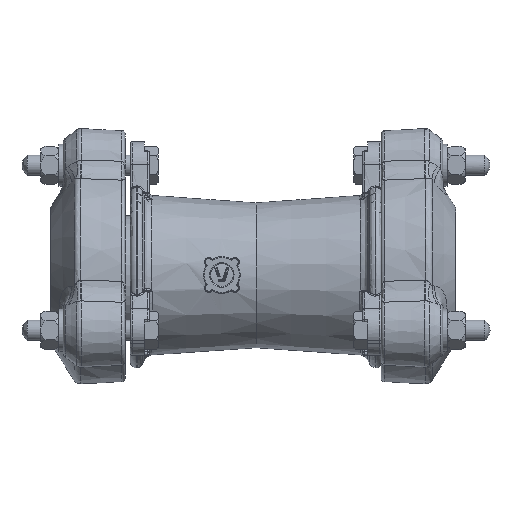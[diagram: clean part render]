
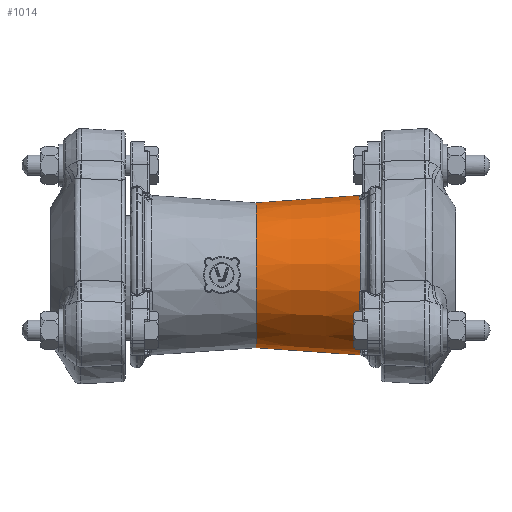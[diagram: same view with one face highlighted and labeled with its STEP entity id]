
A CAD part, front view. The second image highlights one B-rep face of the part: STEP entity #1014.
In plain terms, the highlighted conical face has half-angle 4 degrees and reference radius 43.606 mm.
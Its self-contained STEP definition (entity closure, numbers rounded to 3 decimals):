
#870=CARTESIAN_POINT('',(-42.123,0.0,0.0));
#871=DIRECTION('',(1.0,0.0,0.0));
#872=DIRECTION('',(0.0,-1.0,0.0));
#873=AXIS2_PLACEMENT_3D('',#870,#871,#872);
#874=CONICAL_SURFACE('',#873,43.606,4.);
#875=CARTESIAN_POINT('',(-12.255,44.793,-9.032));
#876=VERTEX_POINT('',#875);
#877=CARTESIAN_POINT('',(-12.255,14.574,43.308));
#878=VERTEX_POINT('',#877);
#879=CARTESIAN_POINT('',(-12.255,0.0,0.0));
#880=DIRECTION('',(1.0,0.0,0.0));
#881=DIRECTION('',(0.0,1.0,0.0));
#882=AXIS2_PLACEMENT_3D('',#879,#880,#881);
#883=CIRCLE('',#882,45.694);
#884=EDGE_CURVE('',#876,#878,#883,.T.);
#885=ORIENTED_EDGE('',*,*,#884,.F.);
#886=CARTESIAN_POINT('',(-12.86,44.666,-9.438));
#887=VERTEX_POINT('',#886);
#888=CARTESIAN_POINT('',(-12.86,44.666,-9.438));
#889=CARTESIAN_POINT('',(-12.858,44.666,-9.437));
#890=CARTESIAN_POINT('',(-12.856,44.667,-9.435));
#891=CARTESIAN_POINT('',(-12.854,44.667,-9.434));
#892=CARTESIAN_POINT('',(-12.658,44.71,-9.298));
#893=CARTESIAN_POINT('',(-12.459,44.752,-9.16));
#894=CARTESIAN_POINT('',(-12.255,44.793,-9.032));
#895=B_SPLINE_CURVE_WITH_KNOTS('',3,(#888,#889,#890,#891,#892,#893,#894),.UNSPECIFIED.,.F.,.U.,(4,3,4),(0.114,0.114,0.155),.UNSPECIFIED.);
#896=EDGE_CURVE('',#887,#876,#895,.T.);
#897=ORIENTED_EDGE('',*,*,#896,.F.);
#898=CARTESIAN_POINT('',(-12.86,30.506,-33.963));
#899=VERTEX_POINT('',#898);
#900=CARTESIAN_POINT('',(-12.86,0.0,0.0));
#901=DIRECTION('',(1.0,0.0,0.0));
#902=DIRECTION('',(0.0,-0.866,0.5));
#903=AXIS2_PLACEMENT_3D('',#900,#901,#902);
#904=CIRCLE('',#903,45.652);
#905=EDGE_CURVE('',#899,#887,#904,.T.);
#906=ORIENTED_EDGE('',*,*,#905,.F.);
#907=CARTESIAN_POINT('',(-12.255,30.219,-34.275));
#908=VERTEX_POINT('',#907);
#909=CARTESIAN_POINT('',(-12.86,30.506,-33.963));
#910=CARTESIAN_POINT('',(-12.858,30.505,-33.964));
#911=CARTESIAN_POINT('',(-12.856,30.504,-33.965));
#912=CARTESIAN_POINT('',(-12.854,30.503,-33.966));
#913=CARTESIAN_POINT('',(-12.657,30.407,-34.071));
#914=CARTESIAN_POINT('',(-12.459,30.309,-34.177));
#915=CARTESIAN_POINT('',(-12.255,30.219,-34.275));
#916=B_SPLINE_CURVE_WITH_KNOTS('',3,(#909,#910,#911,#912,#913,#914,#915),.UNSPECIFIED.,.F.,.U.,(4,3,4),(-0.001,0.0,0.073),.UNSPECIFIED.);
#917=EDGE_CURVE('',#899,#908,#916,.T.);
#918=ORIENTED_EDGE('',*,*,#917,.T.);
#919=CARTESIAN_POINT('',(-12.255,-30.219,-34.275));
#920=VERTEX_POINT('',#919);
#921=CARTESIAN_POINT('',(-12.255,0.0,0.0));
#922=DIRECTION('',(1.0,0.0,0.0));
#923=DIRECTION('',(0.0,1.0,0.0));
#924=AXIS2_PLACEMENT_3D('',#921,#922,#923);
#925=CIRCLE('',#924,45.694);
#926=EDGE_CURVE('',#920,#908,#925,.T.);
#927=ORIENTED_EDGE('',*,*,#926,.F.);
#928=CARTESIAN_POINT('',(-12.86,-30.506,-33.963));
#929=VERTEX_POINT('',#928);
#930=CARTESIAN_POINT('',(-12.86,-30.506,-33.963));
#931=CARTESIAN_POINT('',(-12.858,-30.505,-33.964));
#932=CARTESIAN_POINT('',(-12.856,-30.504,-33.965));
#933=CARTESIAN_POINT('',(-12.854,-30.503,-33.966));
#934=CARTESIAN_POINT('',(-12.658,-30.408,-34.07));
#935=CARTESIAN_POINT('',(-12.459,-30.309,-34.176));
#936=CARTESIAN_POINT('',(-12.255,-30.219,-34.275));
#937=B_SPLINE_CURVE_WITH_KNOTS('',3,(#930,#931,#932,#933,#934,#935,#936),.UNSPECIFIED.,.F.,.U.,(4,3,4),(0.175,0.175,0.246),.UNSPECIFIED.);
#938=EDGE_CURVE('',#929,#920,#937,.T.);
#939=ORIENTED_EDGE('',*,*,#938,.F.);
#940=CARTESIAN_POINT('',(-12.86,-44.666,-9.438));
#941=VERTEX_POINT('',#940);
#942=CARTESIAN_POINT('',(-12.86,0.0,0.0));
#943=DIRECTION('',(1.,0.0,0.0));
#944=DIRECTION('',(0.0,0.866,0.5));
#945=AXIS2_PLACEMENT_3D('',#942,#943,#944);
#946=CIRCLE('',#945,45.652);
#947=EDGE_CURVE('',#941,#929,#946,.T.);
#948=ORIENTED_EDGE('',*,*,#947,.F.);
#949=CARTESIAN_POINT('',(-12.255,-44.793,-9.032));
#950=VERTEX_POINT('',#949);
#951=CARTESIAN_POINT('',(-12.86,-44.666,-9.438));
#952=CARTESIAN_POINT('',(-12.858,-44.666,-9.437));
#953=CARTESIAN_POINT('',(-12.856,-44.667,-9.435));
#954=CARTESIAN_POINT('',(-12.854,-44.667,-9.434));
#955=CARTESIAN_POINT('',(-12.658,-44.71,-9.298));
#956=CARTESIAN_POINT('',(-12.459,-44.752,-9.16));
#957=CARTESIAN_POINT('',(-12.255,-44.793,-9.032));
#958=B_SPLINE_CURVE_WITH_KNOTS('',3,(#951,#952,#953,#954,#955,#956,#957),.UNSPECIFIED.,.F.,.U.,(4,3,4),(-0.001,0.0,0.073),.UNSPECIFIED.);
#959=EDGE_CURVE('',#941,#950,#958,.T.);
#960=ORIENTED_EDGE('',*,*,#959,.T.);
#961=CARTESIAN_POINT('',(-12.255,-14.574,43.308));
#962=VERTEX_POINT('',#961);
#963=CARTESIAN_POINT('',(-12.255,0.0,0.0));
#964=DIRECTION('',(1.0,0.0,0.0));
#965=DIRECTION('',(0.0,1.0,0.0));
#966=AXIS2_PLACEMENT_3D('',#963,#964,#965);
#967=CIRCLE('',#966,45.694);
#968=EDGE_CURVE('',#962,#950,#967,.T.);
#969=ORIENTED_EDGE('',*,*,#968,.F.);
#970=CARTESIAN_POINT('',(-12.86,-14.159,43.401));
#971=VERTEX_POINT('',#970);
#972=CARTESIAN_POINT('',(-12.86,-14.159,43.401));
#973=CARTESIAN_POINT('',(-12.858,-14.161,43.4));
#974=CARTESIAN_POINT('',(-12.856,-14.162,43.4));
#975=CARTESIAN_POINT('',(-12.854,-14.163,43.4));
#976=CARTESIAN_POINT('',(-12.658,-14.302,43.369));
#977=CARTESIAN_POINT('',(-12.459,-14.443,43.337));
#978=CARTESIAN_POINT('',(-12.255,-14.574,43.308));
#979=B_SPLINE_CURVE_WITH_KNOTS('',3,(#972,#973,#974,#975,#976,#977,#978),.UNSPECIFIED.,.F.,.U.,(4,3,4),(0.114,0.114,0.155),.UNSPECIFIED.);
#980=EDGE_CURVE('',#971,#962,#979,.T.);
#981=ORIENTED_EDGE('',*,*,#980,.F.);
#982=CARTESIAN_POINT('',(-12.86,14.159,43.401));
#983=VERTEX_POINT('',#982);
#984=CARTESIAN_POINT('',(-12.86,0.0,0.0));
#985=DIRECTION('',(1.0,0.0,0.0));
#986=DIRECTION('',(0.0,0.,-1.0));
#987=AXIS2_PLACEMENT_3D('',#984,#985,#986);
#988=CIRCLE('',#987,45.652);
#989=EDGE_CURVE('',#983,#971,#988,.T.);
#990=ORIENTED_EDGE('',*,*,#989,.F.);
#991=CARTESIAN_POINT('',(-12.86,14.159,43.401));
#992=CARTESIAN_POINT('',(-12.858,14.161,43.4));
#993=CARTESIAN_POINT('',(-12.856,14.162,43.4));
#994=CARTESIAN_POINT('',(-12.854,14.163,43.4));
#995=CARTESIAN_POINT('',(-12.658,14.302,43.369));
#996=CARTESIAN_POINT('',(-12.459,14.443,43.337));
#997=CARTESIAN_POINT('',(-12.255,14.574,43.308));
#998=B_SPLINE_CURVE_WITH_KNOTS('',3,(#991,#992,#993,#994,#995,#996,#997),.UNSPECIFIED.,.F.,.U.,(4,3,4),(-0.001,0.0,0.073),.UNSPECIFIED.);
#999=EDGE_CURVE('',#983,#878,#998,.T.);
#1000=ORIENTED_EDGE('',*,*,#999,.T.);
#1001=EDGE_LOOP('',(#885,#897,#906,#918,#927,#939,#948,#960,#969,#981,#990,#1000));
#1002=FACE_OUTER_BOUND('',#1001,.T.);
#1003=CARTESIAN_POINT('',(-71.991,41.517,0.));
#1004=VERTEX_POINT('',#1003);
#1005=CARTESIAN_POINT('',(-71.991,0.0,0.0));
#1006=DIRECTION('',(-1.0,0.0,0.0));
#1007=DIRECTION('',(0.0,-1.0,0.0));
#1008=AXIS2_PLACEMENT_3D('',#1005,#1006,#1007);
#1009=CIRCLE('',#1008,41.517);
#1010=EDGE_CURVE('',#1004,#1004,#1009,.T.);
#1011=ORIENTED_EDGE('',*,*,#1010,.F.);
#1012=EDGE_LOOP('',(#1011));
#1013=FACE_BOUND('',#1012,.T.);
#1014=ADVANCED_FACE('',(#1002,#1013),#874,.T.);
